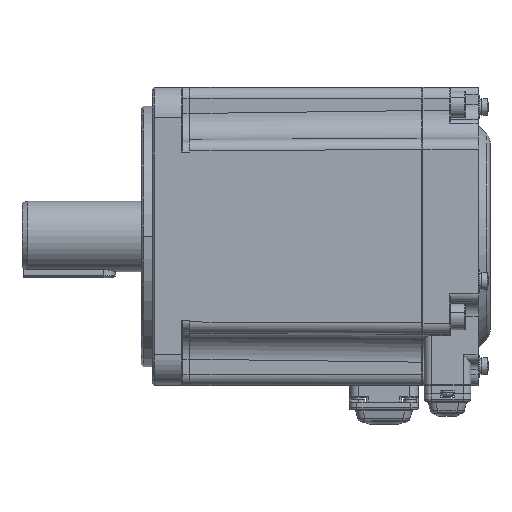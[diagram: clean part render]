
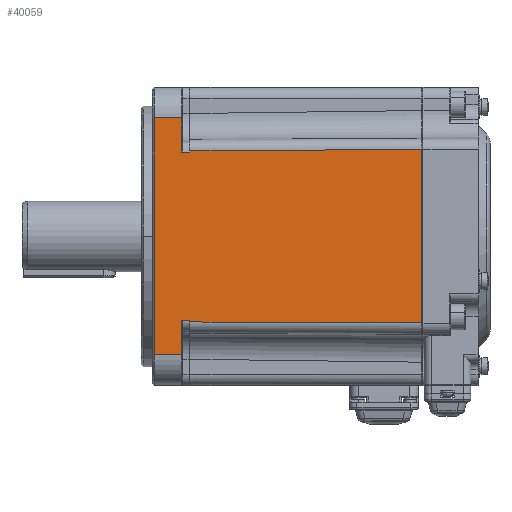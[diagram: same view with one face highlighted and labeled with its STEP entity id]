
A CAD part, top view. The second image highlights one B-rep face of the part: STEP entity #40059.
In plain terms, the highlighted planar face has unit normal (0, 0, 1).
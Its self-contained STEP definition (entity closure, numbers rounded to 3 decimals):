
#37 = CARTESIAN_POINT ( 'NONE',  ( -145.568, -40., 27.298 ) ) ;
#618 = CARTESIAN_POINT ( 'NONE',  ( -210.068, -40., 27.298 ) ) ;
#1302 = ORIENTED_EDGE ( 'NONE', *, *, #7531, .T. ) ;
#1549 = LINE ( 'NONE', #12077, #43134 ) ;
#1599 = LINE ( 'NONE', #33446, #43998 ) ;
#2309 = VECTOR ( 'NONE', #23476, 1000. ) ;
#2400 = ORIENTED_EDGE ( 'NONE', *, *, #26478, .F. ) ;
#2841 = CARTESIAN_POINT ( 'NONE',  ( -210.068, 31.8, 27.298 ) ) ;
#3325 = VERTEX_POINT ( 'NONE', #9694 ) ;
#3352 = CARTESIAN_POINT ( 'NONE',  ( -210.068, -22.5, 27.298 ) ) ;
#3855 = DIRECTION ( 'NONE',  ( 0., 0., 1. ) ) ;
#4078 = PLANE ( 'NONE',  #38341 ) ;
#4121 = VERTEX_POINT ( 'NONE', #31008 ) ;
#4128 = CARTESIAN_POINT ( 'NONE',  ( -208.068, -22.5, 27.298 ) ) ;
#4727 = ORIENTED_EDGE ( 'NONE', *, *, #36634, .T. ) ;
#4848 = LINE ( 'NONE', #5717, #23556 ) ;
#5717 = CARTESIAN_POINT ( 'NONE',  ( -30.631, 31.8, 27.298 ) ) ;
#5843 = ORIENTED_EDGE ( 'NONE', *, *, #30701, .T. ) ;
#6060 = ORIENTED_EDGE ( 'NONE', *, *, #43535, .T. ) ;
#6142 = ORIENTED_EDGE ( 'NONE', *, *, #29124, .T. ) ;
#6477 = LINE ( 'NONE', #37, #2309 ) ;
#7023 = DIRECTION ( 'NONE',  ( 0., 1., 0. ) ) ;
#7511 = CARTESIAN_POINT ( 'NONE',  ( -217.468, -31.8, 27.298 ) ) ;
#7531 = EDGE_CURVE ( 'NONE', #23234, #4121, #6477, .T. ) ;
#7731 = EDGE_CURVE ( 'NONE', #32046, #18939, #4848, .T. ) ;
#8614 = EDGE_CURVE ( 'NONE', #3325, #27022, #30622, .T. ) ;
#8804 = CARTESIAN_POINT ( 'NONE',  ( -145.568, -23.292, 27.298 ) ) ;
#9123 = DIRECTION ( 'NONE',  ( 0., -1., 0. ) ) ;
#9694 = CARTESIAN_POINT ( 'NONE',  ( -210.068, -31.8, 27.298 ) ) ;
#10348 = CARTESIAN_POINT ( 'NONE',  ( -217.468, 31.8, 27.298 ) ) ;
#10483 = CARTESIAN_POINT ( 'NONE',  ( -30.631, -40., 27.298 ) ) ;
#10714 = VERTEX_POINT ( 'NONE', #22254 ) ;
#12077 = CARTESIAN_POINT ( 'NONE',  ( -30.631, -31.8, 27.298 ) ) ;
#12292 = ORIENTED_EDGE ( 'NONE', *, *, #8614, .T. ) ;
#13743 = ORIENTED_EDGE ( 'NONE', *, *, #40872, .T. ) ;
#13978 = VECTOR ( 'NONE', #18105, 1000. ) ;
#14158 = LINE ( 'NONE', #28190, #16476 ) ;
#14758 = VECTOR ( 'NONE', #34227, 1000. ) ;
#15182 = CARTESIAN_POINT ( 'NONE',  ( -207.868, 23.009, 27.298 ) ) ;
#15277 = VERTEX_POINT ( 'NONE', #33201 ) ;
#15398 = CARTESIAN_POINT ( 'NONE',  ( -30.921, 23.812, 27.298 ) ) ;
#15663 = ORIENTED_EDGE ( 'NONE', *, *, #36086, .T. ) ;
#15768 = ORIENTED_EDGE ( 'NONE', *, *, #7731, .T. ) ;
#16476 = VECTOR ( 'NONE', #23858, 1000. ) ;
#17599 = LINE ( 'NONE', #618, #41084 ) ;
#18042 = FACE_OUTER_BOUND ( 'NONE', #22653, .T. ) ;
#18105 = DIRECTION ( 'NONE',  ( -1., 0., 0. ) ) ;
#18900 = VERTEX_POINT ( 'NONE', #36093 ) ;
#18939 = VERTEX_POINT ( 'NONE', #10348 ) ;
#19068 = DIRECTION ( 'NONE',  ( -1., 0., 0. ) ) ;
#22254 = CARTESIAN_POINT ( 'NONE',  ( -207.868, -23.009, 27.298 ) ) ;
#22653 = EDGE_LOOP ( 'NONE', ( #42034, #1302, #39788, #5843, #6142, #6060, #15768, #13743, #4727, #12292, #2400, #15663 ) ) ;
#22896 = DIRECTION ( 'NONE',  ( 1., 0., 0. ) ) ;
#23234 = VERTEX_POINT ( 'NONE', #8804 ) ;
#23476 = DIRECTION ( 'NONE',  ( 0., 1., 0. ) ) ;
#23556 = VECTOR ( 'NONE', #19068, 1000. ) ;
#23780 = DIRECTION ( 'NONE',  ( 1., -0.005, 0. ) ) ;
#23858 = DIRECTION ( 'NONE',  ( -1., 0., 0. ) ) ;
#23918 = DIRECTION ( 'NONE',  ( 0., -1., 0. ) ) ;
#23960 = CARTESIAN_POINT ( 'NONE',  ( -207.868, 22.5, 27.298 ) ) ;
#24010 = VECTOR ( 'NONE', #38614, 1000. ) ;
#24247 = LINE ( 'NONE', #42269, #24010 ) ;
#24469 = EDGE_CURVE ( 'NONE', #4121, #31282, #32851, .T. ) ;
#25000 = DIRECTION ( 'NONE',  ( 0., 1., 0. ) ) ;
#25009 = LINE ( 'NONE', #7511, #31160 ) ;
#25156 = VERTEX_POINT ( 'NONE', #27075 ) ;
#25371 = VERTEX_POINT ( 'NONE', #23960 ) ;
#26478 = EDGE_CURVE ( 'NONE', #25156, #27022, #43519, .T. ) ;
#27022 = VERTEX_POINT ( 'NONE', #3352 ) ;
#27075 = CARTESIAN_POINT ( 'NONE',  ( -207.868, -22.5, 27.298 ) ) ;
#28190 = CARTESIAN_POINT ( 'NONE',  ( -208.068, 22.5, 27.298 ) ) ;
#29124 = EDGE_CURVE ( 'NONE', #25371, #15277, #14158, .T. ) ;
#29429 = DIRECTION ( 'NONE',  ( -1., -0.005, 0. ) ) ;
#30622 = LINE ( 'NONE', #41106, #14758 ) ;
#30701 = EDGE_CURVE ( 'NONE', #31282, #25371, #1599, .T. ) ;
#30787 = VECTOR ( 'NONE', #23780, 1000. ) ;
#31008 = CARTESIAN_POINT ( 'NONE',  ( -145.568, 23.292, 27.298 ) ) ;
#31160 = VECTOR ( 'NONE', #23918, 1000. ) ;
#31282 = VERTEX_POINT ( 'NONE', #15182 ) ;
#32046 = VERTEX_POINT ( 'NONE', #2841 ) ;
#32851 = LINE ( 'NONE', #15398, #39350 ) ;
#33201 = CARTESIAN_POINT ( 'NONE',  ( -210.068, 22.5, 27.298 ) ) ;
#33446 = CARTESIAN_POINT ( 'NONE',  ( -207.868, -40., 27.298 ) ) ;
#34227 = DIRECTION ( 'NONE',  ( 0., 1., 0. ) ) ;
#36086 = EDGE_CURVE ( 'NONE', #25156, #10714, #24247, .T. ) ;
#36093 = CARTESIAN_POINT ( 'NONE',  ( -217.468, -31.8, 27.298 ) ) ;
#36634 = EDGE_CURVE ( 'NONE', #18900, #3325, #1549, .T. ) ;
#37484 = LINE ( 'NONE', #45222, #30787 ) ;
#38341 = AXIS2_PLACEMENT_3D ( 'NONE', #10483, #3855, #25000 ) ;
#38614 = DIRECTION ( 'NONE',  ( 0., -1., 0. ) ) ;
#39350 = VECTOR ( 'NONE', #29429, 1000. ) ;
#39788 = ORIENTED_EDGE ( 'NONE', *, *, #24469, .T. ) ;
#40059 = ADVANCED_FACE ( 'NONE', ( #18042 ), #4078, .T. ) ;
#40872 = EDGE_CURVE ( 'NONE', #18939, #18900, #25009, .T. ) ;
#41084 = VECTOR ( 'NONE', #7023, 1000. ) ;
#41106 = CARTESIAN_POINT ( 'NONE',  ( -210.068, -40., 27.298 ) ) ;
#42034 = ORIENTED_EDGE ( 'NONE', *, *, #42329, .T. ) ;
#42269 = CARTESIAN_POINT ( 'NONE',  ( -207.868, -40., 27.298 ) ) ;
#42329 = EDGE_CURVE ( 'NONE', #10714, #23234, #37484, .T. ) ;
#43134 = VECTOR ( 'NONE', #22896, 1000. ) ;
#43519 = LINE ( 'NONE', #4128, #13978 ) ;
#43535 = EDGE_CURVE ( 'NONE', #15277, #32046, #17599, .T. ) ;
#43998 = VECTOR ( 'NONE', #9123, 1000. ) ;
#45222 = CARTESIAN_POINT ( 'NONE',  ( -30.558, -23.814, 27.298 ) ) ;
